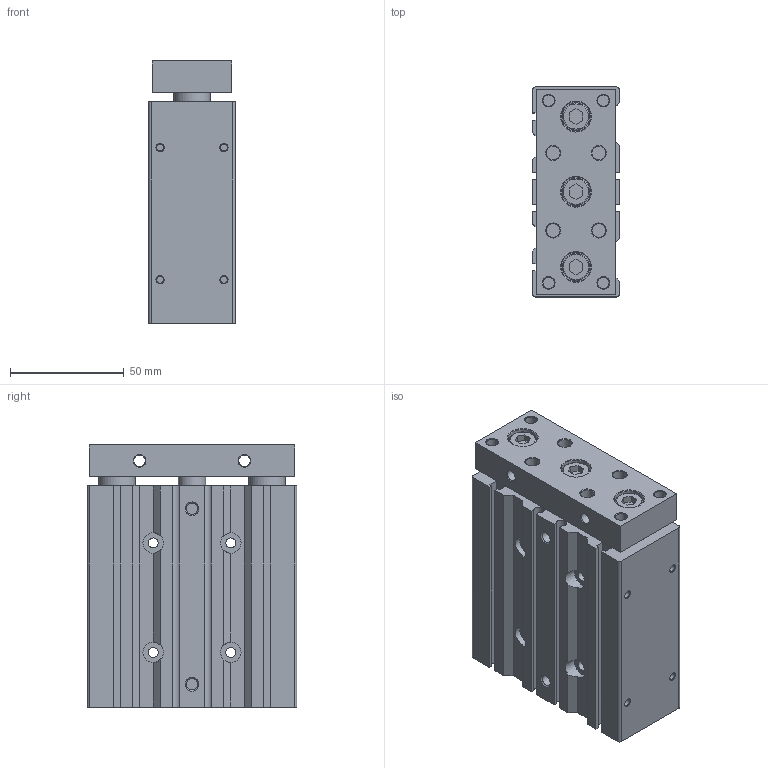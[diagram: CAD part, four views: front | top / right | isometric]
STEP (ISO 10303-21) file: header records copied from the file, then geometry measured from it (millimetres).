
FILE_DESCRIPTION((''),'2;1');
FILE_NAME('I:\3D電子目錄\氣缸\TB(U)\TB(U)25\TB(U)25\TB(U)25x50.stp','2007-08-06T08:23:36',('Administrator'),(''),'Autodesk Inventor 2008','Autodesk Inventor 2008','');
FILE_SCHEMA(('AUTOMOTIVE_DESIGN { 1 0 10303 214 1 1 1 1 }'));
Length unit declared in the file: millimetre
Products named in the file (1): TB(U)25X50
Bounding box: 38 x 92 x 115 mm (x, y, z)
Volume: 348955.8 mm3; surface area: 57157.8 mm2
Topology: 1 solids, 1 shells, 214 faces, 500 edges, 318 vertices
Faces by surface type: plane 104, cylinder 48, cone 39, bspline 20, torus 3
Full cylindrical faces by diameter (mm): 3 x4, 4.4 x4, 5 x6, 6 x8, 9 x4, 12 x4, 13 x3, 16 x4, 21 x2, 28 x1
Entity records: 5814 total; most frequent: CARTESIAN_POINT 1133, DIRECTION 968, ORIENTED_EDGE 808, EDGE_CURVE 404, AXIS2_PLACEMENT_3D 369, EDGE_LOOP 368, VERTEX_POINT 314, VECTOR 230
